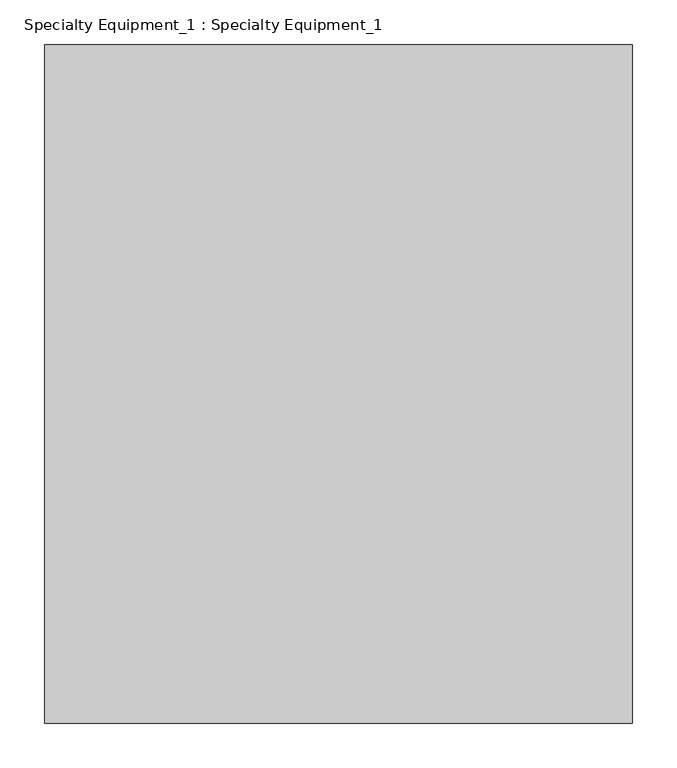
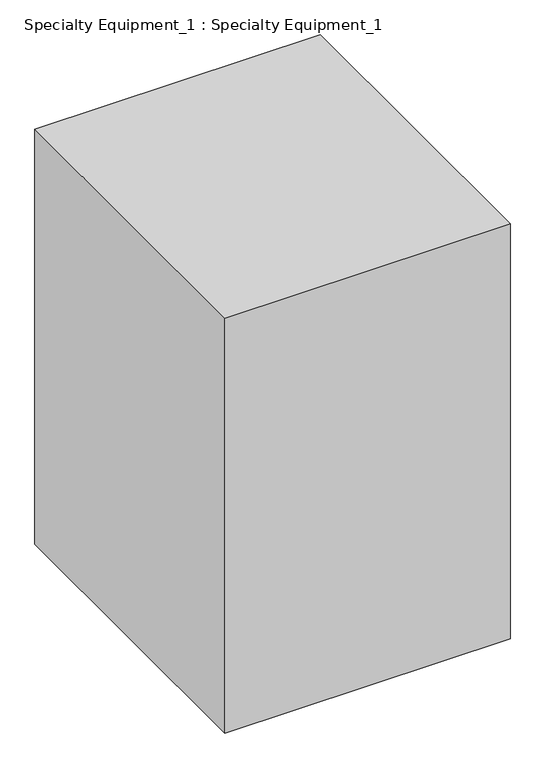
"""IFC4 building model written with IfcOpenShell, lengths in millimetres: proxy geometry, Specialty Equipment_1 : Specialty Equipment_1."""

import ifcopenshell
import ifcopenshell.guid

model = None  # the IFC model being written
_history = None  # IfcOwnerHistory: only IFC2X3 demands one
_inside = {}  # id of a spatial element -> (the spatial element, [elements in it])
_under = {}  # id of a project, library or spatial element -> (it, [spatial elements below it])
_declared = {}  # id of a project -> (the project, [libraries it declares])
_typed = {}  # id of a type object -> (the type object, [elements of that type])
_made_of = {}  # id of a material, layer set ... -> (it, [elements and type objects made of it])


def new_model(schema):
    """Start an empty IFC model of exactly this schema.

    Asked for "IFC4X3", IfcOpenShell would pick the latest addendum, in which some entities
    have other attributes; the version numbers below select the first issue.
    IFC2X3 requires an IfcOwnerHistory on every rooted entity: one is made here for all.
    """
    global model, _history
    if schema == "IFC4X3":
        model = ifcopenshell.file(schema_version=(4, 3, 0, 0))
    else:
        model = ifcopenshell.file(schema=schema)
    _inside.clear()
    _under.clear()
    _declared.clear()
    _typed.clear()
    _made_of.clear()
    _history = None
    if model.schema == "IFC2X3":
        org = make("IfcOrganization", Name="unknown")
        user = make(
            "IfcPersonAndOrganization",
            ThePerson=make("IfcPerson", FamilyName="unknown"),
            TheOrganization=org,
        )
        app = make(
            "IfcApplication",
            ApplicationDeveloper=org,
            Version="unknown",
            ApplicationFullName="unknown",
            ApplicationIdentifier="unknown",
        )
        _history = make(
            "IfcOwnerHistory",
            OwningUser=user,
            OwningApplication=app,
            ChangeAction="ADDED",
            CreationDate=0,
        )
    return model


def make(cls, **values):
    """One entity of the class cls with the attributes given. An attribute that is None is left unset."""
    return model.create_entity(
        cls, **{name: value for name, value in values.items() if value is not None}
    )


def rooted(cls, **values):
    """An entity with a GlobalId (a new one), such as an element, a storey or a relation."""
    return make(cls, GlobalId=ifcopenshell.guid.new(), OwnerHistory=_history, **values)


def si_unit(unit_type, name, prefix=None):
    """IfcSIUnit, for example si_unit("LENGTHUNIT", "METRE", prefix="MILLI")."""
    return make("IfcSIUnit", UnitType=unit_type, Prefix=prefix, Name=name)


def assignment(units):
    """IfcUnitAssignment: the units of a project."""
    return None if units is None else make("IfcUnitAssignment", Units=units)


def point(xyz):
    """IfcCartesianPoint."""
    return None if xyz is None else make("IfcCartesianPoint", Coordinates=xyz)


def direction(xyz):
    """IfcDirection."""
    return None if xyz is None else make("IfcDirection", DirectionRatios=xyz)


def frame(location, z_axis=None, x_axis=None):
    """IfcAxis2Placement3D, a coordinate frame: its origin and axes. An axis left out is left unset."""
    return make(
        "IfcAxis2Placement3D",
        Location=point(location),
        Axis=direction(z_axis),
        RefDirection=direction(x_axis),
    )


def origin():
    """The frame at (0, 0, 0) with its axes left unset."""
    return frame((0.0, 0.0, 0.0))


def origin_with_axes():
    """The frame at (0, 0, 0) with the z axis (0, 0, 1) and the x axis (1, 0, 0) written out."""
    return frame((0.0, 0.0, 0.0), z_axis=(0.0, 0.0, 1.0), x_axis=(1.0, 0.0, 0.0))


def place(relative_to, where):
    """IfcLocalPlacement: puts the frame where relative to a parent placement (None: the world)."""
    return make(
        "IfcLocalPlacement", PlacementRelTo=relative_to, RelativePlacement=where
    )


def context(
    kind, dimensions, precision=None, world=None, true_north=None, identifier=None
):
    """IfcGeometricRepresentationContext, for example the 3D "Model" context."""
    return make(
        "IfcGeometricRepresentationContext",
        ContextIdentifier=identifier,
        ContextType=kind,
        CoordinateSpaceDimension=dimensions,
        Precision=precision,
        WorldCoordinateSystem=world,
        TrueNorth=true_north,
    )


def project(units=None, contexts=None):
    """IfcProject with its units and contexts."""
    return rooted(
        "IfcProject",
        Name="project",
        RepresentationContexts=contexts,
        UnitsInContext=assignment(units),
    )


def spatial(cls, under=None, at=None, **own):
    """A site, building, storey or space (cls), placed at a placement, below another one or the project."""
    s = rooted(cls, ObjectPlacement=at, **own)
    if under is not None:
        _under.setdefault(under.id(), (under, []))[1].append(s)
    return s


def polyline(points):
    """IfcPolyline through the points."""
    return make("IfcPolyline", Points=[point(p) for p in points])


def outline(outer, holes=None, kind="AREA"):
    """IfcArbitraryClosedProfileDef: a profile drawn as a closed curve; with holes, ...WithVoids."""
    if holes is None:
        return make("IfcArbitraryClosedProfileDef", ProfileType=kind, OuterCurve=outer)
    return make(
        "IfcArbitraryProfileDefWithVoids",
        ProfileType=kind,
        OuterCurve=outer,
        InnerCurves=holes,
    )


def extrude(swept, where, along, depth):
    """IfcExtrudedAreaSolid: the profile swept, set in the frame where, extruded along a direction by depth."""
    return make(
        "IfcExtrudedAreaSolid",
        SweptArea=swept,
        Position=where,
        ExtrudedDirection=direction(along),
        Depth=depth,
    )


def shape(context_of_items, identifier, shape_type, items):
    """IfcShapeRepresentation: the items that make up one representation, for example the "Body"."""
    return make(
        "IfcShapeRepresentation",
        ContextOfItems=context_of_items,
        RepresentationIdentifier=identifier,
        RepresentationType=shape_type,
        Items=items,
    )


def source(mapping_origin, context_of_items, identifier, shape_type, items):
    """IfcRepresentationMap: a shape defined once, which mapped items show again and again."""
    return make(
        "IfcRepresentationMap",
        MappingOrigin=mapping_origin,
        MappedRepresentation=shape(context_of_items, identifier, shape_type, items),
    )


def transform(
    local_origin,
    x_axis=None,
    y_axis=None,
    z_axis=None,
    scale=None,
    scale2=None,
    scale3=None,
    uniform=True,
):
    """IfcCartesianTransformationOperator3D, or its non-uniform kind. x_axis, y_axis, z_axis: its Axis1, 2, 3."""
    if uniform:
        return make(
            "IfcCartesianTransformationOperator3D",
            Axis1=direction(x_axis),
            Axis2=direction(y_axis),
            LocalOrigin=point(local_origin),
            Scale=scale,
            Axis3=direction(z_axis),
        )
    return make(
        "IfcCartesianTransformationOperator3DnonUniform",
        Axis1=direction(x_axis),
        Axis2=direction(y_axis),
        LocalOrigin=point(local_origin),
        Scale=scale,
        Axis3=direction(z_axis),
        Scale2=scale2,
        Scale3=scale3,
    )


def mapped(mapping_source, mapping_target):
    """IfcMappedItem: shows the shape of a source again, moved by a transform."""
    return make(
        "IfcMappedItem", MappingSource=mapping_source, MappingTarget=mapping_target
    )


def made_of(thing, what):
    """Note that an element or type object is made of a material, layer set ...; save() writes the relation."""
    if what is not None:
        _made_of.setdefault(what.id(), (what, []))[1].append(thing)
    return thing


def element(
    cls,
    number,
    at=None,
    inside=None,
    cuts=None,
    type_object=None,
    material=None,
    context=None,
    identifier="Body",
    shape_type=None,
    held_by="IfcProductDefinitionShape",
    body=None,
    shapes=None,
    **own,
):
    """One element of the class cls, such as IfcWall. Its Tag is "e" and its number.

    at: its placement. inside: the storey or other place that contains it. cuts: it is an
    opening in that element (IfcRelVoidsElement). A single representation is given by context,
    identifier, shape_type and body (its items); several are given by shapes. held_by: the class
    of the entity that holds the representations. save() writes the other relations.
    """
    e = rooted(cls, Tag="e%d" % number, ObjectPlacement=at, **own)
    if body is not None:
        shapes = [shape(context, identifier, shape_type, body)]
    if shapes is not None:
        e.Representation = make(held_by, Representations=shapes)
    if inside is not None:
        _inside.setdefault(inside.id(), (inside, []))[1].append(e)
    if cuts is not None:
        rooted(
            "IfcRelVoidsElement", RelatingBuildingElement=cuts, RelatedOpeningElement=e
        )
    if type_object is not None:
        _typed.setdefault(type_object.id(), (type_object, []))[1].append(e)
    return made_of(e, material)


def aggregate(whole, parts):
    """IfcRelAggregates: a whole, such as a stair, and the parts it consists of."""
    return rooted("IfcRelAggregates", RelatingObject=whole, RelatedObjects=parts)


def save(model, path):
    """Write the relations noted so far, then the file.

    IfcRelAggregates (storeys below a building ...), IfcRelContainedInSpatialStructure (elements
    in a storey), IfcRelDefinesByType, IfcRelAssociatesMaterial and IfcRelDeclares: one each for
    every whole, place, type object, material and project.
    """
    for whole, parts in _under.values():
        aggregate(whole, parts)
    for where, things in _inside.values():
        rooted(
            "IfcRelContainedInSpatialStructure",
            RelatedElements=things,
            RelatingStructure=where,
        )
    for kind, things in _typed.values():
        rooted("IfcRelDefinesByType", RelatedObjects=things, RelatingType=kind)
    for what, things in _made_of.values():
        rooted("IfcRelAssociatesMaterial", RelatedObjects=things, RelatingMaterial=what)
    for by, libraries in _declared.values():
        rooted("IfcRelDeclares", RelatingContext=by, RelatedDefinitions=libraries)
    model.write(path)


def specialty_equipment_1_specialty_equipment_1_ee93a8f8(model_context):
    return source(origin(), model_context, "Body", "SweptSolid", [
        extrude(outline(polyline([(330.2, 0.0), (330.2, -762.0), (-330.2, -762.0), (-330.2, 0.0), (330.2, 0.0)])), origin_with_axes(), (0.0, 0.0, 1.0), 1016.0),
    ])


if __name__ == "__main__":
    model = new_model("IFC4")
    model_context = context("Model", 3, world=origin())
    ifc_project = project(units=[si_unit("LENGTHUNIT", "METRE", prefix="MILLI")], contexts=[model_context])
    site = spatial("IfcSite", under=ifc_project)
    building = spatial("IfcBuilding", under=site)
    placement = place(None, origin())
    specialty_equipment_1_specialty_equipment_1_shape = specialty_equipment_1_specialty_equipment_1_ee93a8f8(model_context)
    element("IfcBuildingElementProxy", 1, Name="Specialty Equipment_1 : Specialty Equipment_1", ObjectType="Specialty Equipment_1 : Specialty Equipment_1", at=placement, inside=building, context=model_context, shape_type="MappedRepresentation", body=[
        mapped(specialty_equipment_1_specialty_equipment_1_shape, transform((0.0, 0.0, 0.0), x_axis=(1.0, 0.0, 0.0), y_axis=(0.0, 1.0, 0.0), z_axis=(0.0, 0.0, 1.0))),
    ])
    save(model, "model.ifc")
